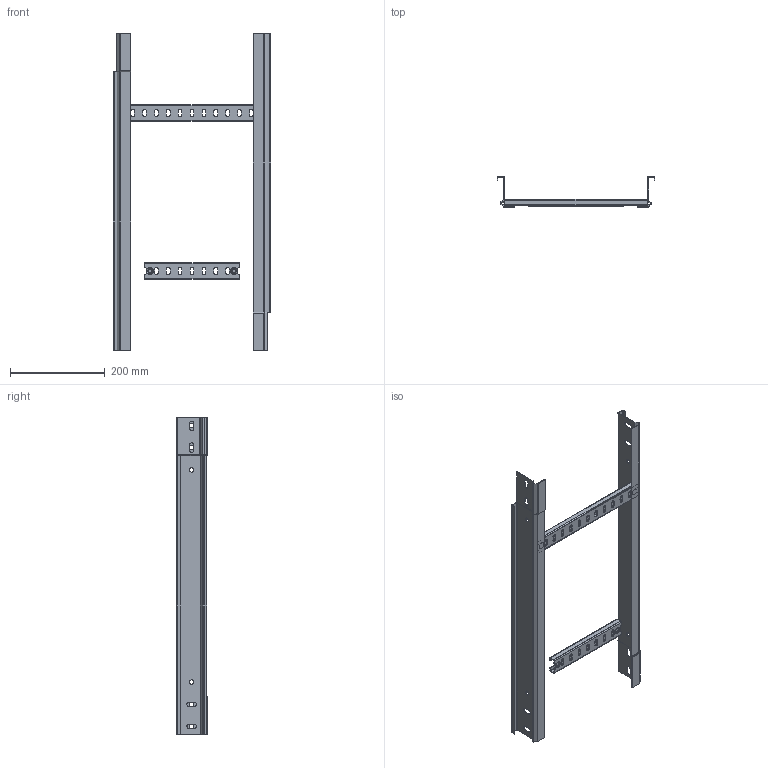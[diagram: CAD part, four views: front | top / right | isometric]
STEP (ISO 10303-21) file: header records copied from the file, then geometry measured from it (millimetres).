
FILE_DESCRIPTION (( 'STEP AP203' ), '1' );
FILE_NAME ('300X60x1,2.step', '2023-08-01T07:29:37', ( '' ), ( '' ), 'SwSTEP 2.0', 'SolidWorks 2022', '' );
FILE_SCHEMA (( 'CONFIG_CONTROL_DESIGN' ));
Length unit declared in the file: millimetre
Products named in the file (4): Travesaño RAT35 FER GS_300; Montante FER GS_60x1,5 0,6M; Travesaño RAT35 FER GS_200; 300X60x1,2
Assembly tree (4 placements, depth 2):
  300X60x1,2
    Montante FER GS_60x1,5 0,6M  x2
    Travesaño RAT35 FER GS_300
    Travesaño RAT35 FER GS_200
Bounding box: 332 x 64.5 x 667 mm (x, y, z)
Volume: 49827.4 mm3; surface area: 357752.7 mm2
Topology: 2 solids, 6 shells, 380 faces, 1012 edges, 650 vertices
Faces by surface type: plane 220, cylinder 124, torus 32, bspline 4
Entity records: 9826 total; most frequent: CARTESIAN_POINT 1975, DIRECTION 1625, ORIENTED_EDGE 1492, EDGE_CURVE 754, AXIS2_PLACEMENT_3D 591, VERTEX_POINT 477, VECTOR 443, LINE 443
